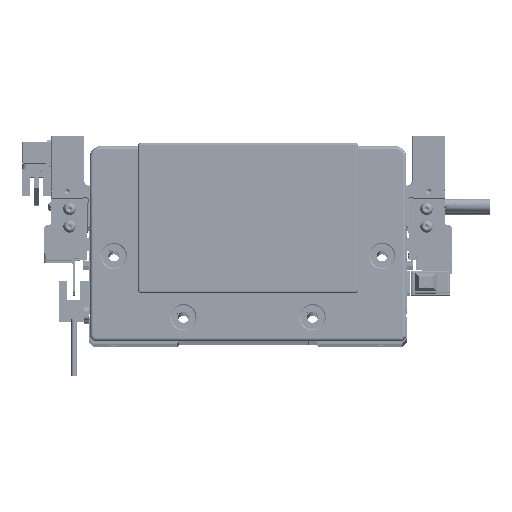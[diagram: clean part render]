
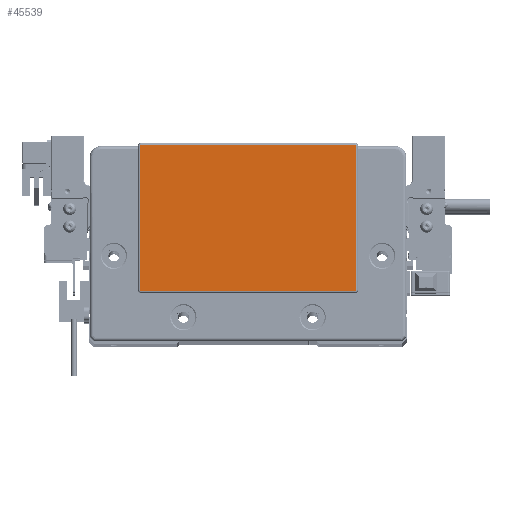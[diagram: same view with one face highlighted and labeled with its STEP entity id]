
A CAD part, top view. The second image highlights one B-rep face of the part: STEP entity #45539.
In plain terms, the highlighted planar face has unit normal (0, 0, 1) as drawn and (0, 0, -1) by its records, which use the part's own axes.
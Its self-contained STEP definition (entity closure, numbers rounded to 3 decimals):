
#159 = AXIS2_PLACEMENT_3D ( 'NONE', #87931, #15726, #24707 ) ;
#575 = VERTEX_POINT ( 'NONE', #76511 ) ;
#5833 = CARTESIAN_POINT ( 'NONE',  ( -48.75, -21.8, -2. ) ) ;
#6861 = EDGE_CURVE ( 'NONE', #10029, #27906, #27457, .T. ) ;
#7293 = CARTESIAN_POINT ( 'NONE',  ( -48.75, -22.3, -2. ) ) ;
#10029 = VERTEX_POINT ( 'NONE', #7293 ) ;
#11374 = DIRECTION ( 'NONE',  ( -1., 0., 0. ) ) ;
#13859 = EDGE_CURVE ( 'NONE', #85229, #55542, #89170, .T. ) ;
#14300 = EDGE_CURVE ( 'NONE', #27906, #57439, #26316, .T. ) ;
#14615 = CARTESIAN_POINT ( 'NONE',  ( 0., 0., -2. ) ) ;
#15726 = DIRECTION ( 'NONE',  ( 0., 0., -1. ) ) ;
#16000 = VERTEX_POINT ( 'NONE', #19321 ) ;
#16035 = ORIENTED_EDGE ( 'NONE', *, *, #13859, .T. ) ;
#17416 = CIRCLE ( 'NONE', #57860, 0.5 ) ;
#18347 = EDGE_LOOP ( 'NONE', ( #103213, #49632, #76366, #69200, #83659, #29496, #16035, #47475 ) ) ;
#18381 = CARTESIAN_POINT ( 'NONE',  ( -49.25, 43.8, -2. ) ) ;
#19136 = DIRECTION ( 'NONE',  ( 0., 0., -1. ) ) ;
#19321 = CARTESIAN_POINT ( 'NONE',  ( 49.25, 43.8, -2. ) ) ;
#19760 = VECTOR ( 'NONE', #82150, 1000. ) ;
#21268 = AXIS2_PLACEMENT_3D ( 'NONE', #81345, #19136, #82401 ) ;
#22515 = DIRECTION ( 'NONE',  ( 0., 0., -1. ) ) ;
#22584 = VECTOR ( 'NONE', #11374, 1000. ) ;
#24374 = DIRECTION ( 'NONE',  ( 1., 0., 0. ) ) ;
#24707 = DIRECTION ( 'NONE',  ( -1., 0., 0. ) ) ;
#25252 = CARTESIAN_POINT ( 'NONE',  ( 49.25, -21.8, -2. ) ) ;
#26316 = LINE ( 'NONE', #18381, #39799 ) ;
#27457 = CIRCLE ( 'NONE', #76256, 0.5 ) ;
#27906 = VERTEX_POINT ( 'NONE', #56894 ) ;
#29496 = ORIENTED_EDGE ( 'NONE', *, *, #79169, .T. ) ;
#34763 = DIRECTION ( 'NONE',  ( 0., 1., 0. ) ) ;
#37484 = CARTESIAN_POINT ( 'NONE',  ( 48.75, 44.3, -2. ) ) ;
#37828 = FACE_OUTER_BOUND ( 'NONE', #18347, .T. ) ;
#38146 = CIRCLE ( 'NONE', #21268, 0.5 ) ;
#38969 = DIRECTION ( 'NONE',  ( -1., 0., 0. ) ) ;
#39799 = VECTOR ( 'NONE', #34763, 1000. ) ;
#45539 = ADVANCED_FACE ( 'NONE', ( #37828 ), #62582, .T. ) ;
#45571 = CIRCLE ( 'NONE', #159, 0.5 ) ;
#47475 = ORIENTED_EDGE ( 'NONE', *, *, #74571, .T. ) ;
#49632 = ORIENTED_EDGE ( 'NONE', *, *, #62853, .T. ) ;
#53802 = DIRECTION ( 'NONE',  ( 0., 0., -1. ) ) ;
#54686 = DIRECTION ( 'NONE',  ( -1., 0., 0. ) ) ;
#55542 = VERTEX_POINT ( 'NONE', #37484 ) ;
#56028 = CARTESIAN_POINT ( 'NONE',  ( -48.75, 44.3, -2. ) ) ;
#56894 = CARTESIAN_POINT ( 'NONE',  ( -49.25, -21.8, -2. ) ) ;
#57439 = VERTEX_POINT ( 'NONE', #90514 ) ;
#57860 = AXIS2_PLACEMENT_3D ( 'NONE', #87430, #94793, #38969 ) ;
#58925 = CARTESIAN_POINT ( 'NONE',  ( 49.25, -21.8, -2. ) ) ;
#62582 = PLANE ( 'NONE',  #78476 ) ;
#62853 = EDGE_CURVE ( 'NONE', #67360, #575, #45571, .T. ) ;
#67360 = VERTEX_POINT ( 'NONE', #58925 ) ;
#68556 = DIRECTION ( 'NONE',  ( -1., 0., 0. ) ) ;
#69200 = ORIENTED_EDGE ( 'NONE', *, *, #6861, .T. ) ;
#74571 = EDGE_CURVE ( 'NONE', #55542, #16000, #17416, .T. ) ;
#76256 = AXIS2_PLACEMENT_3D ( 'NONE', #5833, #53802, #68556 ) ;
#76366 = ORIENTED_EDGE ( 'NONE', *, *, #102708, .T. ) ;
#76511 = CARTESIAN_POINT ( 'NONE',  ( 48.75, -22.3, -2. ) ) ;
#78428 = VECTOR ( 'NONE', #24374, 1000. ) ;
#78476 = AXIS2_PLACEMENT_3D ( 'NONE', #14615, #22515, #54686 ) ;
#79169 = EDGE_CURVE ( 'NONE', #57439, #85229, #38146, .T. ) ;
#80142 = EDGE_CURVE ( 'NONE', #16000, #67360, #90042, .T. ) ;
#81345 = CARTESIAN_POINT ( 'NONE',  ( -48.75, 43.8, -2. ) ) ;
#82150 = DIRECTION ( 'NONE',  ( 0., -1., 0. ) ) ;
#82401 = DIRECTION ( 'NONE',  ( -1., 0., 0. ) ) ;
#83537 = LINE ( 'NONE', #99879, #22584 ) ;
#83659 = ORIENTED_EDGE ( 'NONE', *, *, #14300, .T. ) ;
#85229 = VERTEX_POINT ( 'NONE', #56028 ) ;
#87430 = CARTESIAN_POINT ( 'NONE',  ( 48.75, 43.8, -2. ) ) ;
#87931 = CARTESIAN_POINT ( 'NONE',  ( 48.75, -21.8, -2. ) ) ;
#89170 = LINE ( 'NONE', #96554, #78428 ) ;
#90042 = LINE ( 'NONE', #25252, #19760 ) ;
#90514 = CARTESIAN_POINT ( 'NONE',  ( -49.25, 43.8, -2. ) ) ;
#94793 = DIRECTION ( 'NONE',  ( 0., 0., -1. ) ) ;
#96554 = CARTESIAN_POINT ( 'NONE',  ( 48.75, 44.3, -2. ) ) ;
#99879 = CARTESIAN_POINT ( 'NONE',  ( -48.75, -22.3, -2. ) ) ;
#102708 = EDGE_CURVE ( 'NONE', #575, #10029, #83537, .T. ) ;
#103213 = ORIENTED_EDGE ( 'NONE', *, *, #80142, .T. ) ;
